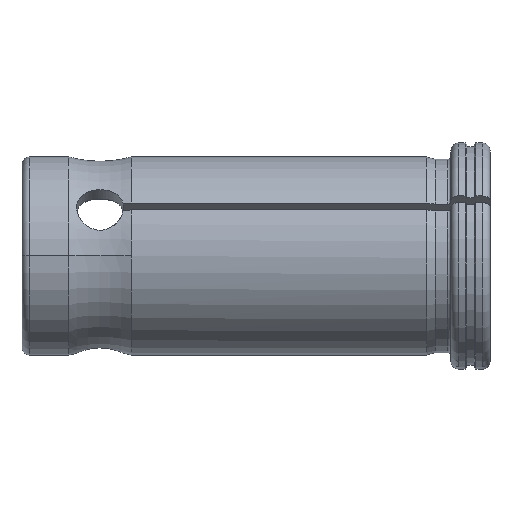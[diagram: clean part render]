
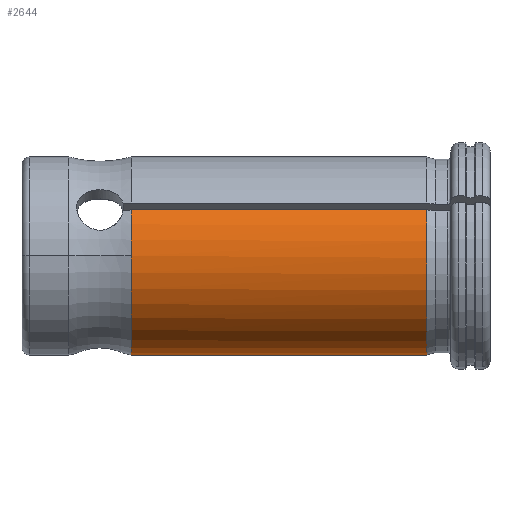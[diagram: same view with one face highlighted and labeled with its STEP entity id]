
A CAD part, top view. The second image highlights one B-rep face of the part: STEP entity #2644.
In plain terms, the highlighted cylindrical face has radius 12.7 mm (diameter 25.4 mm), a partial arc.
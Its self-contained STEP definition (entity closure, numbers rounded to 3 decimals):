
#765=CARTESIAN_POINT('',(-8.12,5.912,11.24));
#782=CARTESIAN_POINT('',(-8.12,-12.69,0.5));
#816=DIRECTION('',(1.,0.,0.));
#817=VECTOR('',#816,37.88);
#818=CARTESIAN_POINT('',(-46.,5.912,11.24));
#819=LINE('',#818,#817);
#820=CARTESIAN_POINT('',(-8.12,0.,0.));
#821=DIRECTION('',(1.,0.,0.));
#822=DIRECTION('',(0.,0.466,0.885));
#823=AXIS2_PLACEMENT_3D('',#820,#821,#822);
#825=DIRECTION('',(1.,0.,0.));
#826=VECTOR('',#825,37.88);
#827=CARTESIAN_POINT('',(-46.,-12.69,0.5));
#828=LINE('',#827,#826);
#849=CARTESIAN_POINT('',(-46.,0.,0.));
#850=DIRECTION('',(1.,0.,0.));
#851=DIRECTION('',(0.,0.466,0.885));
#852=AXIS2_PLACEMENT_3D('',#849,#850,#851);
#1399=CARTESIAN_POINT('',(-46.,0.,0.));
#1400=DIRECTION('',(-1.,0.,0.));
#1401=DIRECTION('',(0.,-0.999,0.039));
#1402=AXIS2_PLACEMENT_3D('',#1399,#1400,#1401);
#1574=CARTESIAN_POINT('',(-46.,0.,12.7));
#1576=VERTEX_POINT('',#1574);
#1657=VERTEX_POINT('',#782);
#1660=CARTESIAN_POINT('',(-46.,-12.69,0.5));
#1661=VERTEX_POINT('',#1660);
#1795=VERTEX_POINT('',#765);
#1797=CARTESIAN_POINT('',(-46.,5.912,11.24));
#1798=VERTEX_POINT('',#1797);
#2628=CARTESIAN_POINT('',(-63.,0.,0.));
#2629=DIRECTION('',(1.,0.,0.));
#2630=DIRECTION('',(0.,0.,1.));
#2631=AXIS2_PLACEMENT_3D('',#2628,#2629,#2630);
#2632=CYLINDRICAL_SURFACE('',#2631,12.7);
#2634=ORIENTED_EDGE('',*,*,#2633,.T.);
#2635=ORIENTED_EDGE('',*,*,#2593,.T.);
#2637=ORIENTED_EDGE('',*,*,#2636,.F.);
#2639=ORIENTED_EDGE('',*,*,#2638,.T.);
#2641=ORIENTED_EDGE('',*,*,#2640,.F.);
#2642=EDGE_LOOP('',(#2634,#2635,#2637,#2639,#2641));
#2643=FACE_OUTER_BOUND('',#2642,.F.);
#2644=ADVANCED_FACE('',(#2643),#2632,.T.);
#824=CIRCLE('',#823,12.7);
#853=CIRCLE('',#852,12.7);
#1403=CIRCLE('',#1402,12.7);
#2593=EDGE_CURVE('',#1795,#1657,#824,.T.);
#2633=EDGE_CURVE('',#1798,#1795,#819,.T.);
#2636=EDGE_CURVE('',#1661,#1657,#828,.T.);
#2638=EDGE_CURVE('',#1661,#1576,#1403,.T.);
#2640=EDGE_CURVE('',#1798,#1576,#853,.T.);
